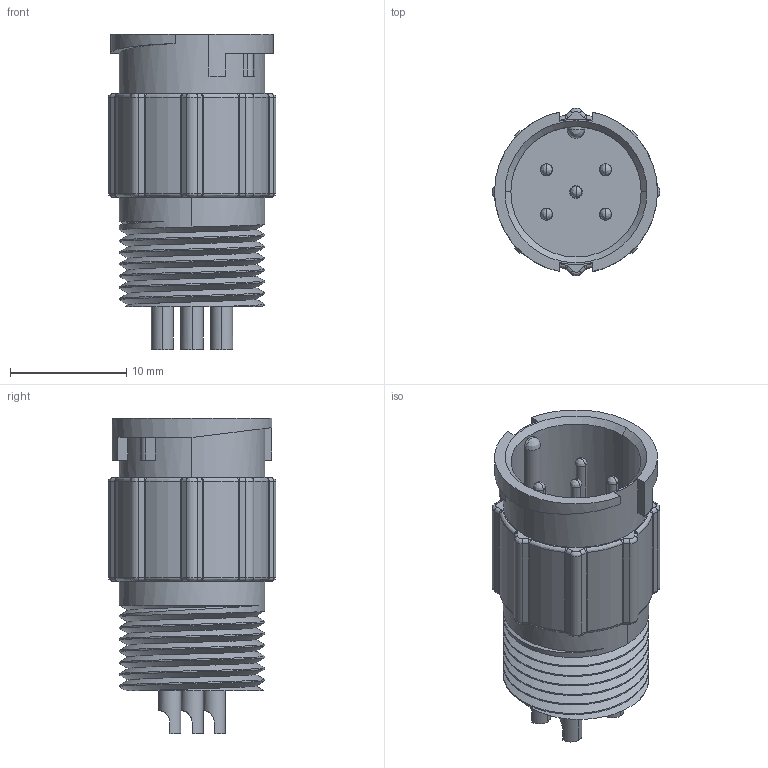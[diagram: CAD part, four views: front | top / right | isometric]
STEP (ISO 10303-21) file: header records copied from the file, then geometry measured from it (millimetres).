
FILE_DESCRIPTION (( 'STEP AP203' ), '1' );
FILE_NAME ('868-005-103R001.STEP', '2025-12-23T16:07:01', ( '' ), ( '' ), 'SwSTEP 2.0', 'SolidWorks 2020', '' );
FILE_SCHEMA (( 'CONFIG_CONTROL_DESIGN' ));
Length unit declared in the file: millimetre
Products named in the file (1): 868-005-103R001
Bounding box: 14.39 x 14.39 x 27.1 mm (x, y, z)
Volume: 1994.2 mm3; surface area: 2640.5 mm2
Topology: 1 solids, 1 shells, 343 faces, 829 edges, 486 vertices
Faces by surface type: cylinder 154, bspline 86, plane 60, cone 43
Entity records: 16565 total; most frequent: CARTESIAN_POINT 9109, ORIENTED_EDGE 1616, DIRECTION 1465, EDGE_CURVE 808, AXIS2_PLACEMENT_3D 574, VERTEX_POINT 486, EDGE_LOOP 362, FACE_OUTER_BOUND 343
